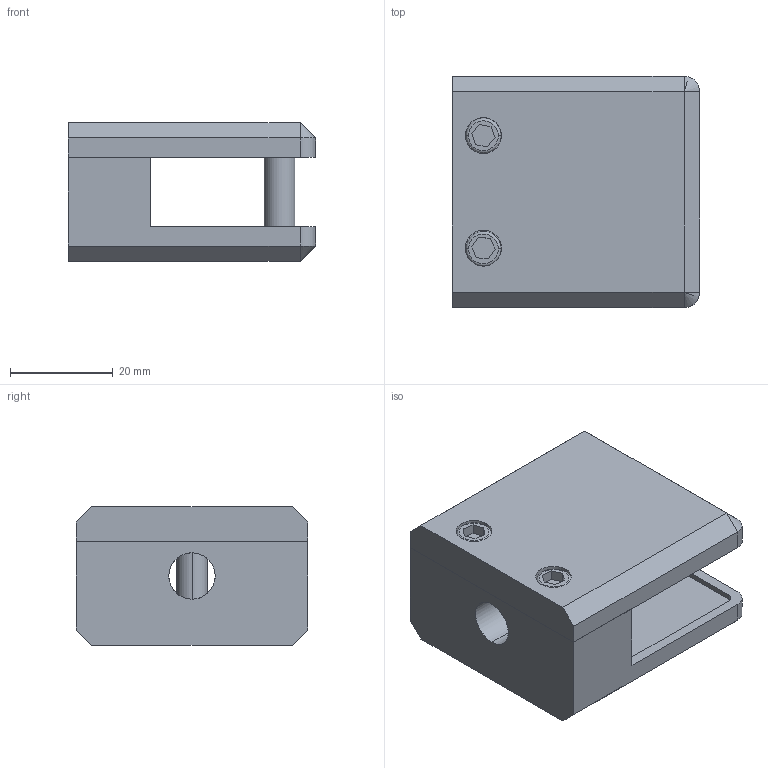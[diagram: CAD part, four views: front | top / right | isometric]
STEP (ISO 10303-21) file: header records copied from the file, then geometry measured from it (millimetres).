
FILE_DESCRIPTION (( 'STEP AP203' ), '1' );
FILE_NAME ('3D_GG4026_ G flach_188766310.STEP', '2024-11-05T08:12:07', ( '' ), ( '' ), 'SwSTEP 2.0', 'SolidWorks 2023', '' );
FILE_SCHEMA (( 'CONFIG_CONTROL_DESIGN' ));
Length unit declared in the file: millimetre
Products named in the file (1): 3D_GG4026_ G flach_188766310
Bounding box: 48 x 45 x 27 mm (x, y, z)
Volume: 34133.2 mm3; surface area: 19505.1 mm2
Topology: 5 solids, 5 shells, 138 faces, 318 edges, 202 vertices
Faces by surface type: plane 70, cylinder 54, cone 10, torus 4
Entity records: 4067 total; most frequent: CARTESIAN_POINT 770, DIRECTION 708, ORIENTED_EDGE 628, EDGE_CURVE 314, AXIS2_PLACEMENT_3D 262, VERTEX_POINT 202, VECTOR 184, LINE 184
